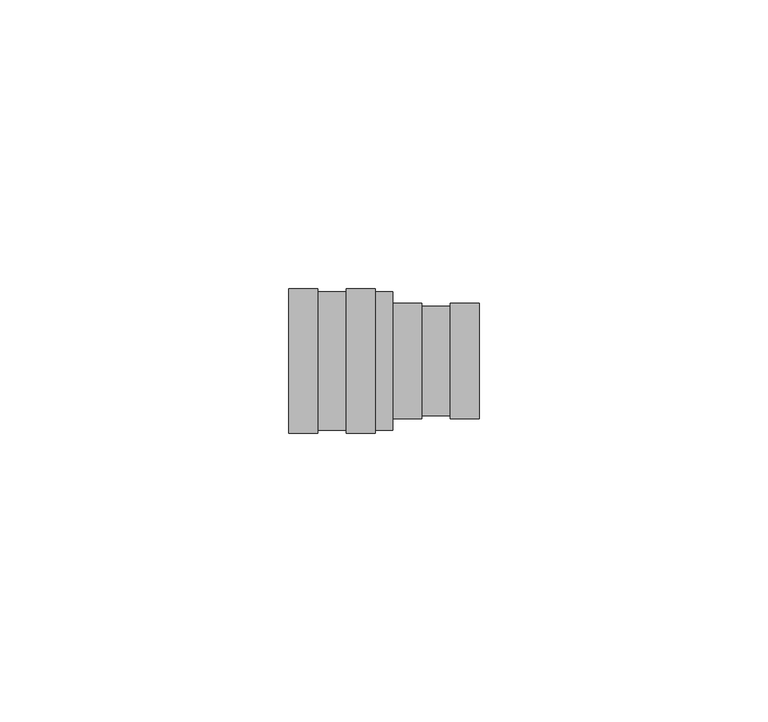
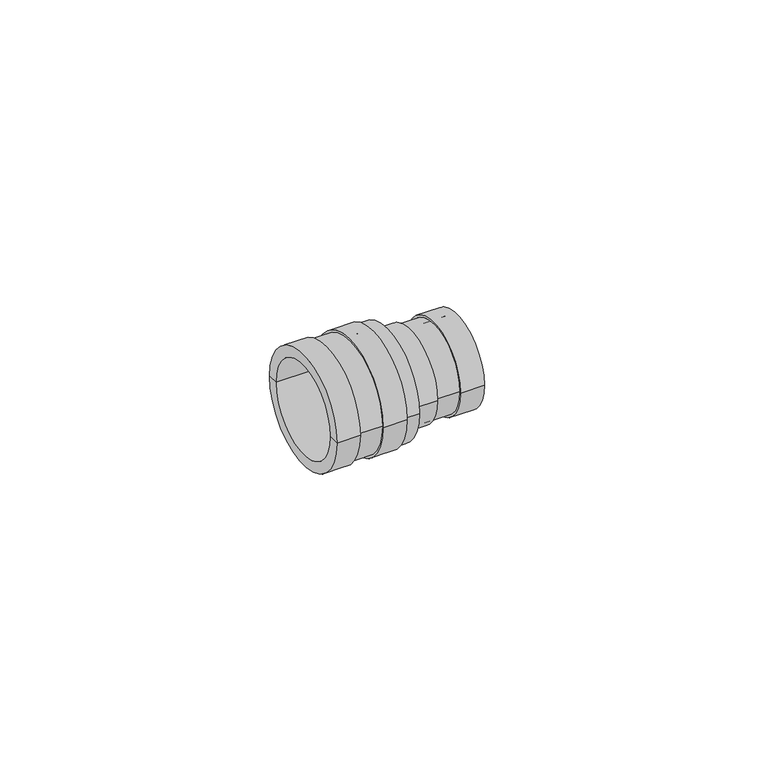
"""IFC4 building model written with IfcOpenShell, lengths in millimetres: pipe fitting geometry, Astra - União para Tubos Reduzidos - KMR : Astra - União para Tubos Reduzidos - KMR."""

from ifc_helpers import new_model, si_unit, frame, origin, place, context, project, spatial, polyline, circle_curve, source, transform, mapped, element, save
from ifc_brep_helpers import plane_surface, cylinder_surface, revolved_surface, advanced_brep


def pipe_fitting_00310f9c(model_context):
    return source(origin(), model_context, "Body", "AdvancedBrep", [
        advanced_brep(
        [(-16.5, -10.15, 0.0), (-16.5, 10.15, 0.0), (-16.5, 12.5, 0.0), (-16.5, -12.5, 0.0), (-1.5, -10.15, 0.0), (-1.5, 10.15, 0.0), (-1.5, -12.5, 0.0), (-1.5, 12.5, 0.0), (-11.5, 12.5, 0.0), (-11.5, -12.5, 0.0), (-6.5, -12.5, 0.0), (-6.5, 12.5, 0.0), (-11.5, 12.0, 0.0), (-11.5, -12.0, 0.0), (-6.5, 12.0, 0.0), (-6.5, -12.0, 0.0)],
        [
            (0, 1, circle_curve(frame((-16.5, 0.0, 0.0), z_axis=(1.0, 0.0, 0.0), x_axis=(0.0, 1.0, 0.0)), 10.15)),
            (1, 2),
            (2, 3, circle_curve(frame((-16.5, 0.0, 0.0), z_axis=(-1.0, 0.0, 0.0), x_axis=(0.0, 1.0, 0.0)), 12.5)),
            (3, 0),
            (1, 0, circle_curve(frame((-16.5, 0.0, 0.0), z_axis=(1.0, 0.0, 0.0), x_axis=(0.0, 1.0, 0.0)), 10.15)),
            (3, 2, circle_curve(frame((-16.5, 0.0, 0.0), z_axis=(-1.0, 0.0, 0.0), x_axis=(0.0, 1.0, 0.0)), 12.5)),
            (0, 4),
            (4, 5, circle_curve(frame((-1.5, 0.0, 0.0), z_axis=(1.0, 0.0, 0.0), x_axis=(0.0, 1.0, 0.0)), 10.15)),
            (5, 1),
            (5, 4, circle_curve(frame((-1.5, 0.0, 0.0), z_axis=(1.0, 0.0, 0.0), x_axis=(0.0, 1.0, 0.0)), 10.15)),
            (4, 6),
            (6, 7, circle_curve(frame((-1.5, 0.0, 0.0), z_axis=(1.0, 0.0, 0.0), x_axis=(0.0, 1.0, 0.0)), 12.5)),
            (7, 5),
            (7, 6, circle_curve(frame((-1.5, 0.0, 0.0), z_axis=(1.0, 0.0, 0.0), x_axis=(0.0, 1.0, 0.0)), 12.5)),
            (2, 8),
            (8, 9, circle_curve(frame((-11.5, 0.0, 0.0), z_axis=(-1.0, 0.0, 0.0), x_axis=(0.0, 1.0, 0.0)), 12.5)),
            (9, 3),
            (6, 10),
            (10, 11, circle_curve(frame((-6.5, 0.0, 0.0), z_axis=(1.0, 0.0, 0.0), x_axis=(0.0, 1.0, 0.0)), 12.5)),
            (11, 7),
            (9, 8, circle_curve(frame((-11.5, 0.0, 0.0), z_axis=(-1.0, 0.0, 0.0), x_axis=(0.0, 1.0, 0.0)), 12.5)),
            (11, 10, circle_curve(frame((-6.5, 0.0, 0.0), z_axis=(1.0, 0.0, 0.0), x_axis=(0.0, 1.0, 0.0)), 12.5)),
            (12, 13, circle_curve(frame((-11.5, 0.0, 0.0), z_axis=(-1.0, 0.0, 0.0), x_axis=(0.0, 1.0, 0.0)), 12.0)),
            (13, 9),
            (8, 12),
            (13, 12, circle_curve(frame((-11.5, 0.0, 0.0), z_axis=(-1.0, 0.0, 0.0), x_axis=(0.0, 1.0, 0.0)), 12.0)),
            (12, 14),
            (14, 15, circle_curve(frame((-6.5, 0.0, 0.0), z_axis=(-1.0, 0.0, 0.0), x_axis=(0.0, 1.0, 0.0)), 12.0)),
            (15, 13),
            (15, 14, circle_curve(frame((-6.5, 0.0, 0.0), z_axis=(-1.0, 0.0, 0.0), x_axis=(0.0, 1.0, 0.0)), 12.0)),
            (14, 11),
            (10, 15),
        ],
        [
            plane_surface(frame((-16.5, 0.0, 0.0), z_axis=(-1.0, 0.0, 0.0), x_axis=(0.0, 1.0, 0.0))),
            revolved_surface(polyline([(-16.5, 10.15, 0.0), (-1.5, 10.15, 0.0)]), (-16.5, 0.0, 0.0), (-1.0, 0.0, 0.0)),
            plane_surface(frame((-1.5, 0.0, 0.0), z_axis=(1.0, 0.0, 0.0), x_axis=(0.0, 1.0, 0.0))),
            cylinder_surface(frame((-16.5, 0.0, 0.0), z_axis=(-1.0, 0.0, 0.0), x_axis=(0.0, 1.0, 0.0)), 12.5),
            plane_surface(frame((-11.5, 0.0, 0.0), z_axis=(1.0, 0.0, 0.0), x_axis=(0.0, 1.0, 0.0))),
            cylinder_surface(frame((-16.5, 0.0, 0.0), z_axis=(-1.0, 0.0, 0.0), x_axis=(0.0, 1.0, 0.0)), 12.0),
            plane_surface(frame((-6.5, 0.0, 0.0), z_axis=(-1.0, 0.0, 0.0), x_axis=(0.0, 1.0, 0.0))),
        ],
        [
            (0, [[1, 2, 3, 4]]),
            (0, [[-2, 5, -4, 6]]),
            (1, [[-1, 7, 8, 9]]),
            (1, [[-5, -9, 10, -7]]),
            (2, [[-8, 11, 12, 13]]),
            (2, [[-10, -13, 14, -11]]),
            (3, [[-3, 15, 16, 17]]),
            (3, [[-12, 18, 19, 20]]),
            (3, [[-6, -17, 21, -15]]),
            (3, [[-14, -20, 22, -18]]),
            (4, [[23, 24, -16, 25]]),
            (4, [[26, -25, -21, -24]]),
            (5, [[-23, 27, 28, 29]]),
            (5, [[-26, -29, 30, -27]]),
            (6, [[-28, 31, -19, 32]]),
            (6, [[-30, -32, -22, -31]]),
        ],
    ),
        advanced_brep(
        [(1.5, -8.15, 0.0), (1.5, 8.15, 0.0), (1.5, 10.0, 0.0), (1.5, -10.0, 0.0), (16.5, -8.15, 0.0), (16.5, 8.15, 0.0), (16.5, -10.0, 0.0), (16.5, 10.0, 0.0), (6.5, 10.0, 0.0), (6.5, -10.0, 0.0), (11.5, -10.0, 0.0), (11.5, 10.0, 0.0), (6.5, 9.5, 0.0), (6.5, -9.5, 0.0), (11.5, 9.5, 0.0), (11.5, -9.5, 0.0)],
        [
            (0, 1, circle_curve(frame((1.5, 0.0, 0.0), z_axis=(1.0, 0.0, 0.0), x_axis=(0.0, 1.0, 0.0)), 8.15)),
            (1, 2),
            (2, 3, circle_curve(frame((1.5, 0.0, 0.0), z_axis=(-1.0, 0.0, 0.0), x_axis=(0.0, 1.0, 0.0)), 10.0)),
            (3, 0),
            (1, 0, circle_curve(frame((1.5, 0.0, 0.0), z_axis=(1.0, 0.0, 0.0), x_axis=(0.0, 1.0, 0.0)), 8.15)),
            (3, 2, circle_curve(frame((1.5, 0.0, 0.0), z_axis=(-1.0, 0.0, 0.0), x_axis=(0.0, 1.0, 0.0)), 10.0)),
            (0, 4),
            (4, 5, circle_curve(frame((16.5, 0.0, 0.0), z_axis=(1.0, 0.0, 0.0), x_axis=(0.0, 1.0, 0.0)), 8.15)),
            (5, 1),
            (5, 4, circle_curve(frame((16.5, 0.0, 0.0), z_axis=(1.0, 0.0, 0.0), x_axis=(0.0, 1.0, 0.0)), 8.15)),
            (4, 6),
            (6, 7, circle_curve(frame((16.5, 0.0, 0.0), z_axis=(1.0, 0.0, 0.0), x_axis=(0.0, 1.0, 0.0)), 10.0)),
            (7, 5),
            (7, 6, circle_curve(frame((16.5, 0.0, 0.0), z_axis=(1.0, 0.0, 0.0), x_axis=(0.0, 1.0, 0.0)), 10.0)),
            (2, 8),
            (8, 9, circle_curve(frame((6.5, 0.0, 0.0), z_axis=(-1.0, 0.0, 0.0), x_axis=(0.0, 1.0, 0.0)), 10.0)),
            (9, 3),
            (6, 10),
            (10, 11, circle_curve(frame((11.5, 0.0, 0.0), z_axis=(1.0, 0.0, 0.0), x_axis=(0.0, 1.0, 0.0)), 10.0)),
            (11, 7),
            (9, 8, circle_curve(frame((6.5, 0.0, 0.0), z_axis=(-1.0, 0.0, 0.0), x_axis=(0.0, 1.0, 0.0)), 10.0)),
            (11, 10, circle_curve(frame((11.5, 0.0, 0.0), z_axis=(1.0, 0.0, 0.0), x_axis=(0.0, 1.0, 0.0)), 10.0)),
            (12, 13, circle_curve(frame((6.5, 0.0, 0.0), z_axis=(-1.0, 0.0, 0.0), x_axis=(0.0, 1.0, 0.0)), 9.5)),
            (13, 9),
            (8, 12),
            (13, 12, circle_curve(frame((6.5, 0.0, 0.0), z_axis=(-1.0, 0.0, 0.0), x_axis=(0.0, 1.0, 0.0)), 9.5)),
            (12, 14),
            (14, 15, circle_curve(frame((11.5, 0.0, 0.0), z_axis=(-1.0, 0.0, 0.0), x_axis=(0.0, 1.0, 0.0)), 9.5)),
            (15, 13),
            (15, 14, circle_curve(frame((11.5, 0.0, 0.0), z_axis=(-1.0, 0.0, 0.0), x_axis=(0.0, 1.0, 0.0)), 9.5)),
            (14, 11),
            (10, 15),
        ],
        [
            plane_surface(frame((1.5, 0.0, 0.0), z_axis=(-1.0, 0.0, 0.0), x_axis=(0.0, 1.0, 0.0))),
            revolved_surface(polyline([(1.5, 8.15, 0.0), (16.5, 8.15, 0.0)]), (1.5, 0.0, 0.0), (-1.0, 0.0, 0.0)),
            plane_surface(frame((16.5, 0.0, 0.0), z_axis=(1.0, 0.0, 0.0), x_axis=(0.0, 1.0, 0.0))),
            cylinder_surface(frame((1.5, 0.0, 0.0), z_axis=(-1.0, 0.0, 0.0), x_axis=(0.0, 1.0, 0.0)), 10.0),
            plane_surface(frame((6.5, 0.0, 0.0), z_axis=(1.0, 0.0, 0.0), x_axis=(0.0, 1.0, 0.0))),
            cylinder_surface(frame((1.5, 0.0, 0.0), z_axis=(-1.0, 0.0, 0.0), x_axis=(0.0, 1.0, 0.0)), 9.5),
            plane_surface(frame((11.5, 0.0, 0.0), z_axis=(-1.0, 0.0, 0.0), x_axis=(0.0, 1.0, 0.0))),
        ],
        [
            (0, [[1, 2, 3, 4]]),
            (0, [[-2, 5, -4, 6]]),
            (1, [[-1, 7, 8, 9]]),
            (1, [[-5, -9, 10, -7]]),
            (2, [[-8, 11, 12, 13]]),
            (2, [[-10, -13, 14, -11]]),
            (3, [[-3, 15, 16, 17]]),
            (3, [[-12, 18, 19, 20]]),
            (3, [[-6, -17, 21, -15]]),
            (3, [[-14, -20, 22, -18]]),
            (4, [[23, 24, -16, 25]]),
            (4, [[26, -25, -21, -24]]),
            (5, [[-23, 27, 28, 29]]),
            (5, [[-26, -29, 30, -27]]),
            (6, [[-28, 31, -19, 32]]),
            (6, [[-30, -32, -22, -31]]),
        ],
    ),
        advanced_brep(
        [(1.5, -12.0, 0.0), (1.5, 12.0, 0.0), (1.5, 0.0, 0.0), (-1.5, -12.0, 0.0), (-1.5, 12.0, 0.0), (-1.5, 0.0, 0.0)],
        [
            (0, 1, circle_curve(frame((1.5, 0.0, 0.0), z_axis=(1.0, 0.0, 0.0), x_axis=(0.0, 1.0, 0.0)), 12.0)),
            (1, 2),
            (2, 0),
            (1, 0, circle_curve(frame((1.5, 0.0, 0.0), z_axis=(1.0, 0.0, 0.0), x_axis=(0.0, 1.0, 0.0)), 12.0)),
            (3, 4, circle_curve(frame((-1.5, 0.0, 0.0), z_axis=(1.0, 0.0, 0.0), x_axis=(0.0, 1.0, 0.0)), 12.0)),
            (4, 1),
            (0, 3),
            (4, 3, circle_curve(frame((-1.5, 0.0, 0.0), z_axis=(1.0, 0.0, 0.0), x_axis=(0.0, 1.0, 0.0)), 12.0)),
            (5, 4),
            (3, 5),
        ],
        [
            plane_surface(frame((1.5, 0.0, 0.0), z_axis=(1.0, 0.0, 0.0), x_axis=(0.0, 1.0, 0.0))),
            cylinder_surface(frame((-1.5, 0.0, 0.0), z_axis=(-1.0, 0.0, 0.0), x_axis=(0.0, 1.0, 0.0)), 12.0),
            plane_surface(frame((-1.5, 0.0, 0.0), z_axis=(-1.0, 0.0, 0.0), x_axis=(0.0, 1.0, 0.0))),
        ],
        [
            (0, [[1, 2, 3]]),
            (0, [[4, -3, -2]]),
            (1, [[5, 6, -1, 7]]),
            (1, [[8, -7, -4, -6]]),
            (2, [[9, -5, 10]]),
            (2, [[-10, -8, -9]]),
        ],
    ),
    ])


if __name__ == "__main__":
    model = new_model("IFC4")
    model_context = context("Model", 3, world=origin())
    ifc_project = project(units=[si_unit("LENGTHUNIT", "METRE", prefix="MILLI")], contexts=[model_context])
    site = spatial("IfcSite", under=ifc_project)
    building = spatial("IfcBuilding", under=site)
    placement = place(None, origin())
    pipe_fitting_shape = pipe_fitting_00310f9c(model_context)
    element("IfcPipeFitting", 1, ObjectType="Astra - União para Tubos Reduzidos - KMR : Astra - União para Tubos Reduzidos - KMR", at=placement, inside=building, context=model_context, shape_type="MappedRepresentation", body=[
        mapped(pipe_fitting_shape, transform((0.0, 0.0, 0.0), x_axis=(1.0, 0.0, 0.0), y_axis=(0.0, 1.0, 0.0), z_axis=(0.0, 0.0, 1.0))),
    ])
    save(model, "model.ifc")
